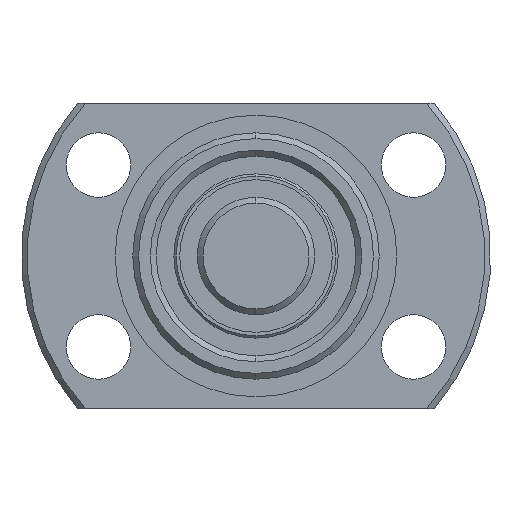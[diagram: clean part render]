
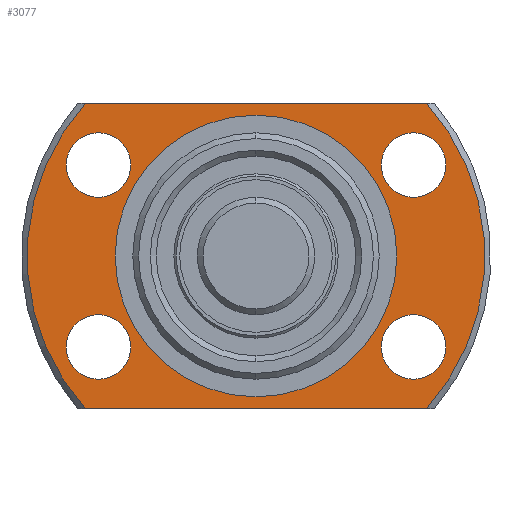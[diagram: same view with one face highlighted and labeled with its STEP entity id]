
A CAD part, left-side view. The second image highlights one B-rep face of the part: STEP entity #3077.
In plain terms, the highlighted planar face has unit normal (-1, 0, 0).
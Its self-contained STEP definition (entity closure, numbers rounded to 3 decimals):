
#60 = ORIENTED_EDGE ( 'NONE', *, *, #352, .T. ) ;
#61 = ORIENTED_EDGE ( 'NONE', *, *, #485, .F. ) ;
#62 = ORIENTED_EDGE ( 'NONE', *, *, #351, .T. ) ;
#63 = ORIENTED_EDGE ( 'NONE', *, *, #483, .F. ) ;
#64 = ORIENTED_EDGE ( 'NONE', *, *, #2925, .T. ) ;
#65 = ORIENTED_EDGE ( 'NONE', *, *, #350, .T. ) ;
#169 = EDGE_LOOP ( 'NONE', ( #1328, #1327 ) ) ;
#176 = EDGE_LOOP ( 'NONE', ( #1326, #1325 ) ) ;
#179 = EDGE_LOOP ( 'NONE', ( #1330, #1329 ) ) ;
#180 = EDGE_LOOP ( 'NONE', ( #63, #62, #61, #60 ) ) ;
#183 = EDGE_LOOP ( 'NONE', ( #1324, #1323 ) ) ;
#184 = EDGE_LOOP ( 'NONE', ( #65, #64 ) ) ;
#346 = EDGE_CURVE ( 'NONE', #1235, #1414, #2044, .T. ) ;
#347 = EDGE_CURVE ( 'NONE', #1402, #1412, #2042, .T. ) ;
#348 = EDGE_CURVE ( 'NONE', #1408, #1390, #2043, .T. ) ;
#349 = EDGE_CURVE ( 'NONE', #1420, #527, #2045, .T. ) ;
#350 = EDGE_CURVE ( 'NONE', #1443, #1440, #2041, .T. ) ;
#351 = EDGE_CURVE ( 'NONE', #1241, #1240, #2040, .T. ) ;
#352 = EDGE_CURVE ( 'NONE', #1484, #1472, #2039, .T. ) ;
#483 = EDGE_CURVE ( 'NONE', #1241, #1472, #1886, .T. ) ;
#485 = EDGE_CURVE ( 'NONE', #1484, #1240, #1889, .T. ) ;
#488 = EDGE_CURVE ( 'NONE', #527, #1420, #1881, .T. ) ;
#492 = EDGE_CURVE ( 'NONE', #1390, #1408, #1875, .T. ) ;
#527 = VERTEX_POINT ( 'NONE', #2427 ) ;
#595 = AXIS2_PLACEMENT_3D ( 'NONE', #2711, #2722, #2705 ) ;
#597 = AXIS2_PLACEMENT_3D ( 'NONE', #2839, #2838, #2837 ) ;
#618 = AXIS2_PLACEMENT_3D ( 'NONE', #2407, #2406, #2399 ) ;
#903 = DIRECTION ( 'NONE',  ( -1., 0., 0. ) ) ;
#904 = PLANE ( 'NONE',  #974 ) ;
#905 = CARTESIAN_POINT ( 'NONE',  ( -6., 19.5, 0. ) ) ;
#906 = DIRECTION ( 'NONE',  ( 0., 0., 1. ) ) ;
#974 = AXIS2_PLACEMENT_3D ( 'NONE', #905, #903, #906 ) ;
#1012 = CARTESIAN_POINT ( 'NONE',  ( -6., -14.534, 13. ) ) ;
#1013 = CARTESIAN_POINT ( 'NONE',  ( -6., 14.534, 13. ) ) ;
#1015 = CARTESIAN_POINT ( 'NONE',  ( -6., -13.423, 10.5 ) ) ;
#1033 = CARTESIAN_POINT ( 'NONE',  ( -6., 13.423, 5. ) ) ;
#1038 = CARTESIAN_POINT ( 'NONE',  ( -6., -13.423, -5. ) ) ;
#1060 = AXIS2_PLACEMENT_3D ( 'NONE', #2386, #2385, #2384 ) ;
#1061 = AXIS2_PLACEMENT_3D ( 'NONE', #2377, #2376, #2375 ) ;
#1063 = AXIS2_PLACEMENT_3D ( 'NONE', #2366, #2365, #2364 ) ;
#1065 = AXIS2_PLACEMENT_3D ( 'NONE', #2354, #2352, #2351 ) ;
#1235 = VERTEX_POINT ( 'NONE', #1038 ) ;
#1240 = VERTEX_POINT ( 'NONE', #1013 ) ;
#1241 = VERTEX_POINT ( 'NONE', #1012 ) ;
#1323 = ORIENTED_EDGE ( 'NONE', *, *, #349, .F. ) ;
#1324 = ORIENTED_EDGE ( 'NONE', *, *, #488, .F. ) ;
#1325 = ORIENTED_EDGE ( 'NONE', *, *, #348, .F. ) ;
#1326 = ORIENTED_EDGE ( 'NONE', *, *, #492, .F. ) ;
#1327 = ORIENTED_EDGE ( 'NONE', *, *, #347, .F. ) ;
#1328 = ORIENTED_EDGE ( 'NONE', *, *, #2886, .F. ) ;
#1329 = ORIENTED_EDGE ( 'NONE', *, *, #346, .F. ) ;
#1330 = ORIENTED_EDGE ( 'NONE', *, *, #2889, .F. ) ;
#1390 = VERTEX_POINT ( 'NONE', #1033 ) ;
#1402 = VERTEX_POINT ( 'NONE', #1015 ) ;
#1408 = VERTEX_POINT ( 'NONE', #2683 ) ;
#1412 = VERTEX_POINT ( 'NONE', #2659 ) ;
#1414 = VERTEX_POINT ( 'NONE', #2657 ) ;
#1420 = VERTEX_POINT ( 'NONE', #2630 ) ;
#1440 = VERTEX_POINT ( 'NONE', #2606 ) ;
#1443 = VERTEX_POINT ( 'NONE', #2593 ) ;
#1472 = VERTEX_POINT ( 'NONE', #2696 ) ;
#1484 = VERTEX_POINT ( 'NONE', #2679 ) ;
#1728 = CIRCLE ( 'NONE', #618, 12. ) ;
#1781 = CIRCLE ( 'NONE', #595, 2.75 ) ;
#1787 = CIRCLE ( 'NONE', #597, 2.75 ) ;
#1875 = CIRCLE ( 'NONE', #1065, 2.75 ) ;
#1881 = CIRCLE ( 'NONE', #1063, 2.75 ) ;
#1886 = CIRCLE ( 'NONE', #1060, 19.5 ) ;
#1889 = CIRCLE ( 'NONE', #1061, 19.5 ) ;
#2035 = VECTOR ( 'NONE', #2284, 1000. ) ;
#2037 = VECTOR ( 'NONE', #2285, 1000. ) ;
#2039 = LINE ( 'NONE', #2271, #2035 ) ;
#2040 = LINE ( 'NONE', #2272, #2037 ) ;
#2041 = CIRCLE ( 'NONE', #2999, 12. ) ;
#2042 = CIRCLE ( 'NONE', #2996, 2.75 ) ;
#2043 = CIRCLE ( 'NONE', #2997, 2.75 ) ;
#2044 = CIRCLE ( 'NONE', #2995, 2.75 ) ;
#2045 = CIRCLE ( 'NONE', #2998, 2.75 ) ;
#2231 = CARTESIAN_POINT ( 'NONE',  ( -6., -13.423, -7.75 ) ) ;
#2233 = DIRECTION ( 'NONE',  ( -1., 0., 0. ) ) ;
#2234 = DIRECTION ( 'NONE',  ( 0., 0., 1. ) ) ;
#2240 = CARTESIAN_POINT ( 'NONE',  ( -6., -13.423, 7.75 ) ) ;
#2243 = DIRECTION ( 'NONE',  ( -1., 0., 0. ) ) ;
#2249 = DIRECTION ( 'NONE',  ( 0., 0., 1. ) ) ;
#2257 = CARTESIAN_POINT ( 'NONE',  ( -6., 13.423, 7.75 ) ) ;
#2258 = DIRECTION ( 'NONE',  ( -1., 0., 0. ) ) ;
#2263 = DIRECTION ( 'NONE',  ( 0., 0., 1. ) ) ;
#2268 = CARTESIAN_POINT ( 'NONE',  ( -6., 13.423, -7.75 ) ) ;
#2269 = DIRECTION ( 'NONE',  ( -1., 0., 0. ) ) ;
#2270 = DIRECTION ( 'NONE',  ( 0., 0., 1. ) ) ;
#2271 = CARTESIAN_POINT ( 'NONE',  ( -6., 19.5, -13. ) ) ;
#2272 = CARTESIAN_POINT ( 'NONE',  ( -6., 19.5, 13. ) ) ;
#2273 = CARTESIAN_POINT ( 'NONE',  ( -6., 0., 0. ) ) ;
#2277 = DIRECTION ( 'NONE',  ( 1., 0., 0. ) ) ;
#2280 = DIRECTION ( 'NONE',  ( 0., 0., -1. ) ) ;
#2284 = DIRECTION ( 'NONE',  ( 0., -1., 0. ) ) ;
#2285 = DIRECTION ( 'NONE',  ( 0., 1., 0. ) ) ;
#2351 = DIRECTION ( 'NONE',  ( 0., 0., 1. ) ) ;
#2352 = DIRECTION ( 'NONE',  ( -1., 0., 0. ) ) ;
#2354 = CARTESIAN_POINT ( 'NONE',  ( -6., 13.423, 7.75 ) ) ;
#2364 = DIRECTION ( 'NONE',  ( 0., 0., 1. ) ) ;
#2365 = DIRECTION ( 'NONE',  ( -1., 0., 0. ) ) ;
#2366 = CARTESIAN_POINT ( 'NONE',  ( -6., 13.423, -7.75 ) ) ;
#2375 = DIRECTION ( 'NONE',  ( 0., 0., -1. ) ) ;
#2376 = DIRECTION ( 'NONE',  ( 1., 0., 0. ) ) ;
#2377 = CARTESIAN_POINT ( 'NONE',  ( -6., 0., 0. ) ) ;
#2384 = DIRECTION ( 'NONE',  ( 0., 0., -1. ) ) ;
#2385 = DIRECTION ( 'NONE',  ( 1., 0., 0. ) ) ;
#2386 = CARTESIAN_POINT ( 'NONE',  ( -6., 0., 0. ) ) ;
#2399 = DIRECTION ( 'NONE',  ( 0., 0., -1. ) ) ;
#2406 = DIRECTION ( 'NONE',  ( 1., 0., 0. ) ) ;
#2407 = CARTESIAN_POINT ( 'NONE',  ( -6., 0., 0. ) ) ;
#2427 = CARTESIAN_POINT ( 'NONE',  ( -6., 13.423, -10.5 ) ) ;
#2593 = CARTESIAN_POINT ( 'NONE',  ( -6., 0., -12. ) ) ;
#2606 = CARTESIAN_POINT ( 'NONE',  ( -6., 0., 12. ) ) ;
#2630 = CARTESIAN_POINT ( 'NONE',  ( -6., 13.423, -5. ) ) ;
#2657 = CARTESIAN_POINT ( 'NONE',  ( -6., -13.423, -10.5 ) ) ;
#2659 = CARTESIAN_POINT ( 'NONE',  ( -6., -13.423, 5. ) ) ;
#2679 = CARTESIAN_POINT ( 'NONE',  ( -6., 14.534, -13. ) ) ;
#2683 = CARTESIAN_POINT ( 'NONE',  ( -6., 13.423, 10.5 ) ) ;
#2696 = CARTESIAN_POINT ( 'NONE',  ( -6., -14.534, -13. ) ) ;
#2705 = DIRECTION ( 'NONE',  ( 0., 0., 1. ) ) ;
#2711 = CARTESIAN_POINT ( 'NONE',  ( -6., -13.423, 7.75 ) ) ;
#2722 = DIRECTION ( 'NONE',  ( -1., 0., 0. ) ) ;
#2787 = FACE_BOUND ( 'NONE', #184, .T. ) ;
#2788 = FACE_BOUND ( 'NONE', #176, .T. ) ;
#2789 = FACE_OUTER_BOUND ( 'NONE', #180, .T. ) ;
#2791 = FACE_BOUND ( 'NONE', #169, .T. ) ;
#2792 = FACE_BOUND ( 'NONE', #179, .T. ) ;
#2793 = FACE_BOUND ( 'NONE', #183, .T. ) ;
#2837 = DIRECTION ( 'NONE',  ( 0., 0., 1. ) ) ;
#2838 = DIRECTION ( 'NONE',  ( -1., 0., 0. ) ) ;
#2839 = CARTESIAN_POINT ( 'NONE',  ( -6., -13.423, -7.75 ) ) ;
#2886 = EDGE_CURVE ( 'NONE', #1412, #1402, #1781, .T. ) ;
#2889 = EDGE_CURVE ( 'NONE', #1414, #1235, #1787, .T. ) ;
#2925 = EDGE_CURVE ( 'NONE', #1440, #1443, #1728, .T. ) ;
#2995 = AXIS2_PLACEMENT_3D ( 'NONE', #2231, #2233, #2234 ) ;
#2996 = AXIS2_PLACEMENT_3D ( 'NONE', #2240, #2243, #2249 ) ;
#2997 = AXIS2_PLACEMENT_3D ( 'NONE', #2257, #2258, #2263 ) ;
#2998 = AXIS2_PLACEMENT_3D ( 'NONE', #2268, #2269, #2270 ) ;
#2999 = AXIS2_PLACEMENT_3D ( 'NONE', #2273, #2277, #2280 ) ;
#3077 = ADVANCED_FACE ( 'NONE', ( #2792, #2791, #2788, #2793, #2787, #2789 ), #904, .T. ) ;
